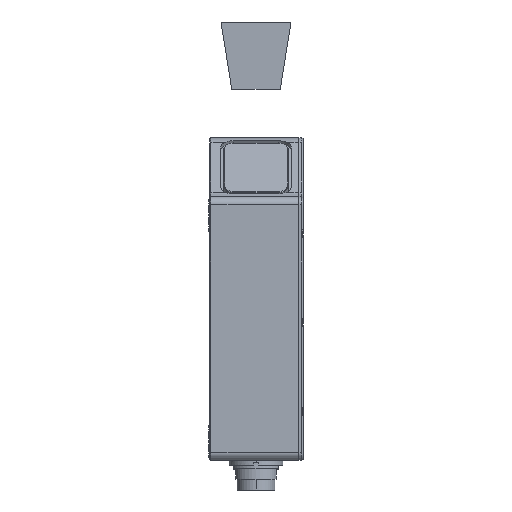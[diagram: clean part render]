
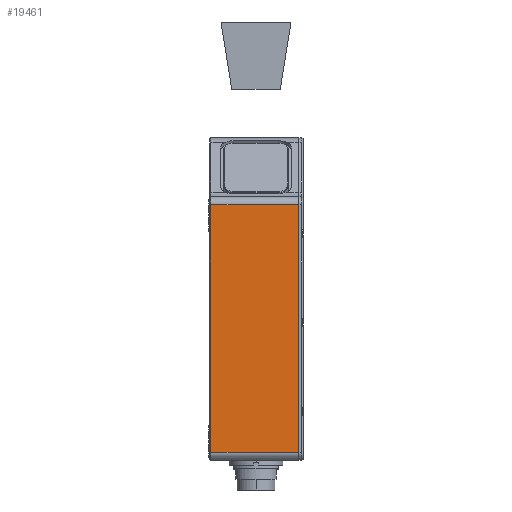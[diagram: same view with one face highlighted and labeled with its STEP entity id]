
A CAD part, front view. The second image highlights one B-rep face of the part: STEP entity #19461.
In plain terms, the highlighted planar face has unit normal (0, -1, 0).
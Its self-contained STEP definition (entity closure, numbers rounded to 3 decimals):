
#637 = LINE ( 'NONE', #47604, #20902 ) ;
#905 = CARTESIAN_POINT ( 'NONE',  ( 15.5, -93., -88. ) ) ;
#2105 = CARTESIAN_POINT ( 'NONE',  ( 15.7, -93., 4. ) ) ;
#2458 = VERTEX_POINT ( 'NONE', #47398 ) ;
#2670 = LINE ( 'NONE', #3438, #43023 ) ;
#3438 = CARTESIAN_POINT ( 'NONE',  ( -16.75, -93., -88. ) ) ;
#5513 = LINE ( 'NONE', #905, #41874 ) ;
#6287 = CARTESIAN_POINT ( 'NONE',  ( -16.75, -93., -88. ) ) ;
#6930 = FACE_OUTER_BOUND ( 'NONE', #31500, .T. ) ;
#7737 = ORIENTED_EDGE ( 'NONE', *, *, #48158, .T. ) ;
#13858 = CARTESIAN_POINT ( 'NONE',  ( 15.5, -93., -88. ) ) ;
#14883 = DIRECTION ( 'NONE',  ( 0., -1., 0. ) ) ;
#17065 = DIRECTION ( 'NONE',  ( -1., 0., 0. ) ) ;
#19461 = ADVANCED_FACE ( 'NONE', ( #6930 ), #37957, .T. ) ;
#20889 = DIRECTION ( 'NONE',  ( 0., 0., -1. ) ) ;
#20902 = VECTOR ( 'NONE', #20889, 1000. ) ;
#24866 = EDGE_CURVE ( 'NONE', #35565, #50216, #5513, .T. ) ;
#25714 = EDGE_CURVE ( 'NONE', #49319, #2458, #49197, .T. ) ;
#26679 = ORIENTED_EDGE ( 'NONE', *, *, #25714, .T. ) ;
#29488 = DIRECTION ( 'NONE',  ( -1., 0., 0. ) ) ;
#31500 = EDGE_LOOP ( 'NONE', ( #26679, #7737, #45969, #37103 ) ) ;
#34788 = CARTESIAN_POINT ( 'NONE',  ( 15.5, -93., 4. ) ) ;
#35549 = DIRECTION ( 'NONE',  ( -1., 0., 0. ) ) ;
#35565 = VERTEX_POINT ( 'NONE', #46775 ) ;
#36456 = EDGE_CURVE ( 'NONE', #49319, #35565, #637, .T. ) ;
#37103 = ORIENTED_EDGE ( 'NONE', *, *, #36456, .F. ) ;
#37957 = PLANE ( 'NONE',  #43321 ) ;
#41874 = VECTOR ( 'NONE', #17065, 1000. ) ;
#42187 = DIRECTION ( 'NONE',  ( 0., 0., -1. ) ) ;
#43023 = VECTOR ( 'NONE', #42187, 1000. ) ;
#43321 = AXIS2_PLACEMENT_3D ( 'NONE', #13858, #14883, #29488 ) ;
#45969 = ORIENTED_EDGE ( 'NONE', *, *, #24866, .F. ) ;
#46073 = VECTOR ( 'NONE', #35549, 1000. ) ;
#46775 = CARTESIAN_POINT ( 'NONE',  ( 15.7, -93., -88. ) ) ;
#47398 = CARTESIAN_POINT ( 'NONE',  ( -16.75, -93., 4. ) ) ;
#47604 = CARTESIAN_POINT ( 'NONE',  ( 15.7, -93., -88. ) ) ;
#48158 = EDGE_CURVE ( 'NONE', #2458, #50216, #2670, .T. ) ;
#49197 = LINE ( 'NONE', #34788, #46073 ) ;
#49319 = VERTEX_POINT ( 'NONE', #2105 ) ;
#50216 = VERTEX_POINT ( 'NONE', #6287 ) ;
